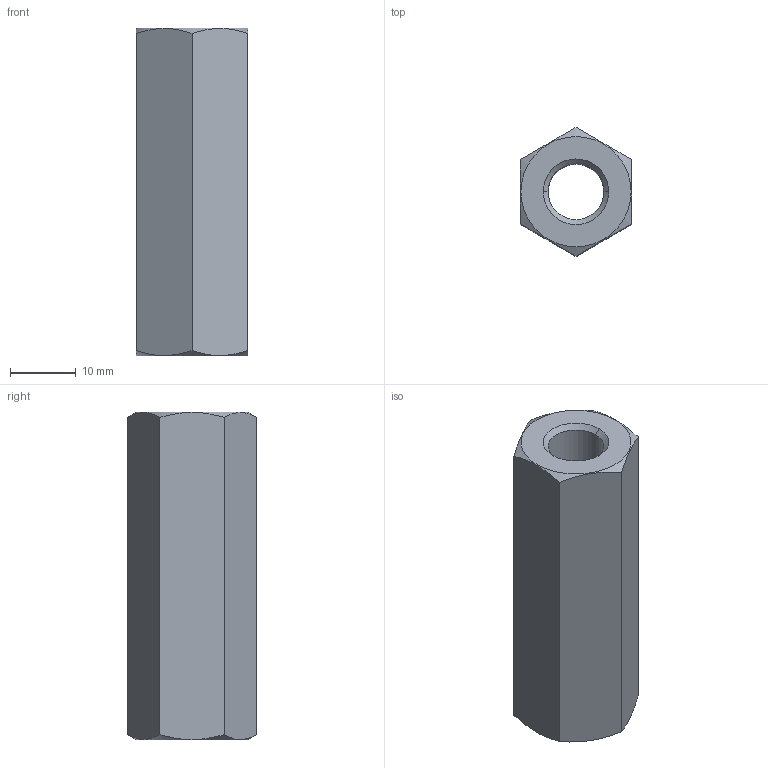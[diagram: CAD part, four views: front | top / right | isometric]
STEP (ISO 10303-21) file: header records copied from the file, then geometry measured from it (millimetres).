
FILE_DESCRIPTION (( 'STEP AP214' ), '1' );
FILE_NAME ('6220-NI-M10-50-A.step', '2019-02-25T07:29:28', ( 'user' ), ( '' ), 'SwSTEP 2.0', 'SolidWorks 2017', '' );
FILE_SCHEMA (( 'AUTOMOTIVE_DESIGN' ));
Length unit declared in the file: millimetre
Products named in the file (1): 6220-NI-M10-50-A
Bounding box: 17 x 19.63 x 50 mm (x, y, z)
Volume: 9647.3 mm3; surface area: 4616.1 mm2
Topology: 1 solids, 1 shells, 18 faces, 44 edges, 28 vertices
Faces by surface type: cone 8, plane 8, cylinder 2
Entity records: 684 total; most frequent: CARTESIAN_POINT 219, ORIENTED_EDGE 88, DIRECTION 78, EDGE_CURVE 44, AXIS2_PLACEMENT_3D 31, VERTEX_POINT 28, EDGE_LOOP 20, FACE_OUTER_BOUND 18
